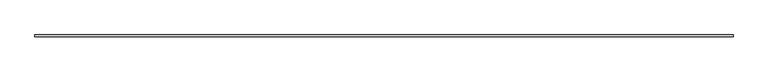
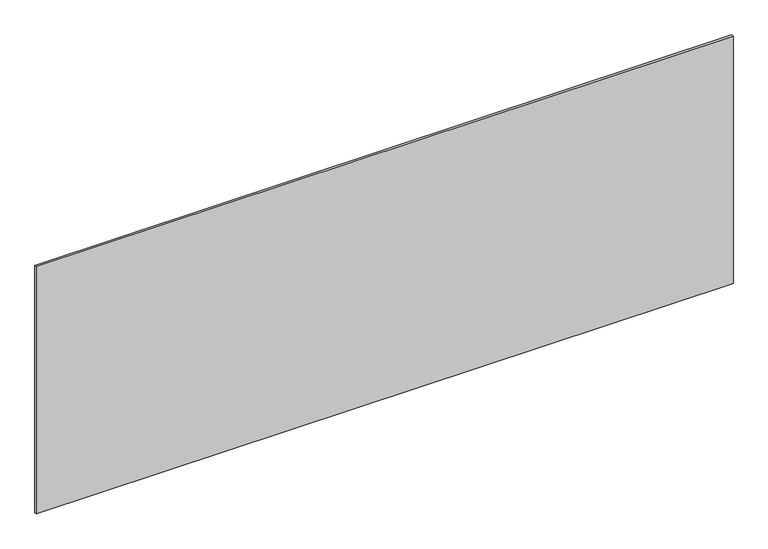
"""IFC4 building model written with IfcOpenShell, lengths in millimetres: plate geometry, システム パネル : 標準."""

from ifc_helpers import new_model, si_unit, origin, origin_with_axes, place, context, project, spatial, polyline, outline, extrude, source, transform, mapped, element, save


def plate_6cc786bc(model_context):
    return source(origin(), model_context, "Body", "SweptSolid", [
        extrude(outline(polyline([(1715.0, -5.0), (-1715.0, -5.0), (-1715.0, 5.0), (1715.0, 5.0), (1715.0, -5.0)])), origin_with_axes(), (0.0, 0.0, 1.0), 1288.1660768),
    ])


if __name__ == "__main__":
    model = new_model("IFC4")
    model_context = context("Model", 3, world=origin())
    ifc_project = project(units=[si_unit("LENGTHUNIT", "METRE", prefix="MILLI")], contexts=[model_context])
    site = spatial("IfcSite", under=ifc_project)
    building = spatial("IfcBuilding", under=site)
    placement = place(None, origin())
    plate_shape = plate_6cc786bc(model_context)
    element("IfcPlate", 1, ObjectType="システム パネル : 標準", at=placement, inside=building, context=model_context, shape_type="MappedRepresentation", body=[
        mapped(plate_shape, transform((0.0, 0.0, 0.0), x_axis=(1.0, 0.0, 0.0), y_axis=(0.0, 1.0, 0.0), z_axis=(0.0, 0.0, 1.0))),
    ])
    save(model, "model.ifc")
